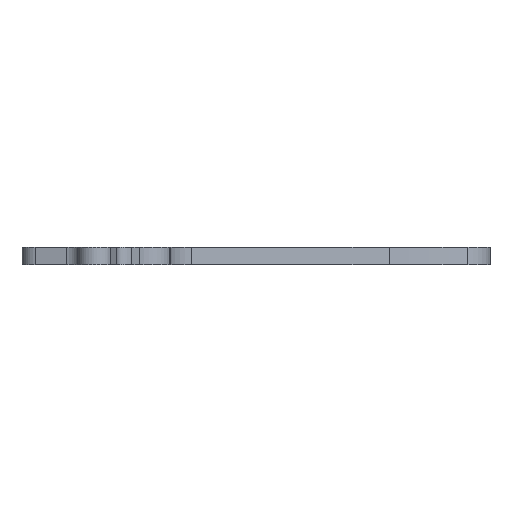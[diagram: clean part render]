
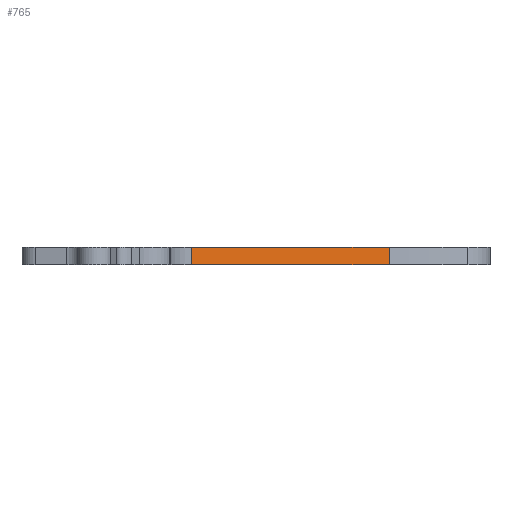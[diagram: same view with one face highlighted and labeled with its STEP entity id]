
A CAD part, left-side view. The second image highlights one B-rep face of the part: STEP entity #765.
In plain terms, the highlighted planar face has unit normal (-0.799, -0.602, 0).
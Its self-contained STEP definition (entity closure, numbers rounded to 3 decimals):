
#44=PLANE('',#855);
#79=FACE_OUTER_BOUND('',#118,.T.);
#118=EDGE_LOOP('',(#606,#607,#608,#609));
#185=LINE('',#1293,#248);
#186=LINE('',#1296,#249);
#187=LINE('',#1298,#250);
#188=LINE('',#1299,#251);
#248=VECTOR('',#1050,10.);
#249=VECTOR('',#1053,10.);
#250=VECTOR('',#1054,10.);
#251=VECTOR('',#1055,10.);
#365=VERTEX_POINT('',#1289);
#366=VERTEX_POINT('',#1291);
#367=VERTEX_POINT('',#1295);
#368=VERTEX_POINT('',#1297);
#467=EDGE_CURVE('',#365,#366,#185,.T.);
#468=EDGE_CURVE('',#367,#365,#186,.T.);
#469=EDGE_CURVE('',#368,#366,#187,.T.);
#470=EDGE_CURVE('',#367,#368,#188,.T.);
#606=ORIENTED_EDGE('',*,*,#468,.T.);
#607=ORIENTED_EDGE('',*,*,#467,.T.);
#608=ORIENTED_EDGE('',*,*,#469,.F.);
#609=ORIENTED_EDGE('',*,*,#470,.F.);
#765=ADVANCED_FACE('',(#79),#44,.T.);
#855=AXIS2_PLACEMENT_3D('',#1294,#1051,#1052);
#1050=DIRECTION('',(0.,0.,1.));
#1051=DIRECTION('center_axis',(-0.799,-0.602,0.));
#1052=DIRECTION('ref_axis',(0.602,-0.799,0.));
#1053=DIRECTION('',(0.602,-0.799,0.));
#1054=DIRECTION('',(0.602,-0.799,0.));
#1055=DIRECTION('',(0.,0.,1.));
#1289=CARTESIAN_POINT('',(-12.226,9.578,0.));
#1291=CARTESIAN_POINT('',(-12.226,9.578,2.6));
#1293=CARTESIAN_POINT('',(-12.226,9.578,0.));
#1294=CARTESIAN_POINT('Origin',(-34.515,39.157,0.));
#1295=CARTESIAN_POINT('',(-34.515,39.157,0.));
#1296=CARTESIAN_POINT('',(-34.515,39.157,0.));
#1297=CARTESIAN_POINT('',(-34.515,39.157,2.6));
#1298=CARTESIAN_POINT('',(-34.515,39.157,2.6));
#1299=CARTESIAN_POINT('',(-34.515,39.157,0.));
